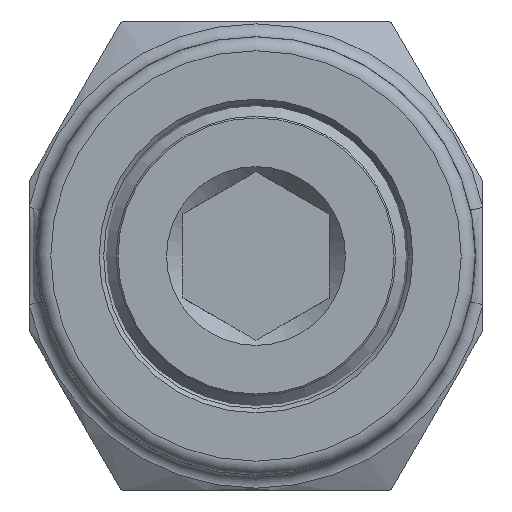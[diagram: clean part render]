
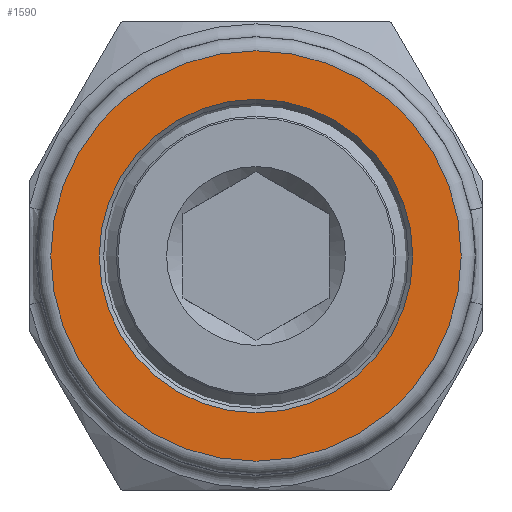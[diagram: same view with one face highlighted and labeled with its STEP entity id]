
A CAD part, front view. The second image highlights one B-rep face of the part: STEP entity #1590.
In plain terms, the highlighted planar face has unit normal (0, -1, 0).
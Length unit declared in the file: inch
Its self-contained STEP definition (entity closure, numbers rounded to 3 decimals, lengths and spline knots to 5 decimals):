
#96=PLANE('',#1765);
#133=FACE_BOUND('',#301,.T.);
#203=FACE_OUTER_BOUND('',#300,.T.);
#300=EDGE_LOOP('',(#1163,#1164));
#301=EDGE_LOOP('',(#1165,#1166));
#554=CIRCLE('',#1727,0.335);
#555=CIRCLE('',#1728,0.335);
#571=CIRCLE('',#1756,0.4385);
#575=CIRCLE('',#1760,0.4385);
#669=VERTEX_POINT('',#2430);
#670=VERTEX_POINT('',#2431);
#692=VERTEX_POINT('',#2626);
#693=VERTEX_POINT('',#2627);
#834=EDGE_CURVE('',#669,#670,#554,.T.);
#835=EDGE_CURVE('',#670,#669,#555,.T.);
#869=EDGE_CURVE('',#692,#693,#571,.T.);
#873=EDGE_CURVE('',#693,#692,#575,.T.);
#1163=ORIENTED_EDGE('',*,*,#869,.F.);
#1164=ORIENTED_EDGE('',*,*,#873,.F.);
#1165=ORIENTED_EDGE('',*,*,#834,.T.);
#1166=ORIENTED_EDGE('',*,*,#835,.T.);
#1590=ADVANCED_FACE('',(#203,#133),#96,.T.);
#1727=AXIS2_PLACEMENT_3D('',#2432,#1945,#1946);
#1728=AXIS2_PLACEMENT_3D('',#2433,#1947,#1948);
#1756=AXIS2_PLACEMENT_3D('',#2628,#2015,#2016);
#1760=AXIS2_PLACEMENT_3D('',#2634,#2023,#2024);
#1765=AXIS2_PLACEMENT_3D('',#2677,#2034,#2035);
#1945=DIRECTION('center_axis',(0.,1.,0.));
#1946=DIRECTION('ref_axis',(0.,0.,-1.));
#1947=DIRECTION('center_axis',(0.,1.,0.));
#1948=DIRECTION('ref_axis',(0.,0.,-1.));
#2015=DIRECTION('center_axis',(0.,1.,0.));
#2016=DIRECTION('ref_axis',(0.,0.,1.));
#2023=DIRECTION('center_axis',(0.,1.,0.));
#2024=DIRECTION('ref_axis',(0.,0.,1.));
#2034=DIRECTION('center_axis',(0.,-1.,0.));
#2035=DIRECTION('ref_axis',(0.,0.,-1.));
#2430=CARTESIAN_POINT('',(0.,0.,-0.335));
#2431=CARTESIAN_POINT('',(0.,0.,0.335));
#2432=CARTESIAN_POINT('Origin',(0.,0.,0.));
#2433=CARTESIAN_POINT('Origin',(0.,0.,0.));
#2626=CARTESIAN_POINT('',(0.,0.,-0.4385));
#2627=CARTESIAN_POINT('',(0.,0.,0.4385));
#2628=CARTESIAN_POINT('Origin',(0.,0.,0.));
#2634=CARTESIAN_POINT('Origin',(0.,0.,0.));
#2677=CARTESIAN_POINT('Origin',(0.,0.,0.));
